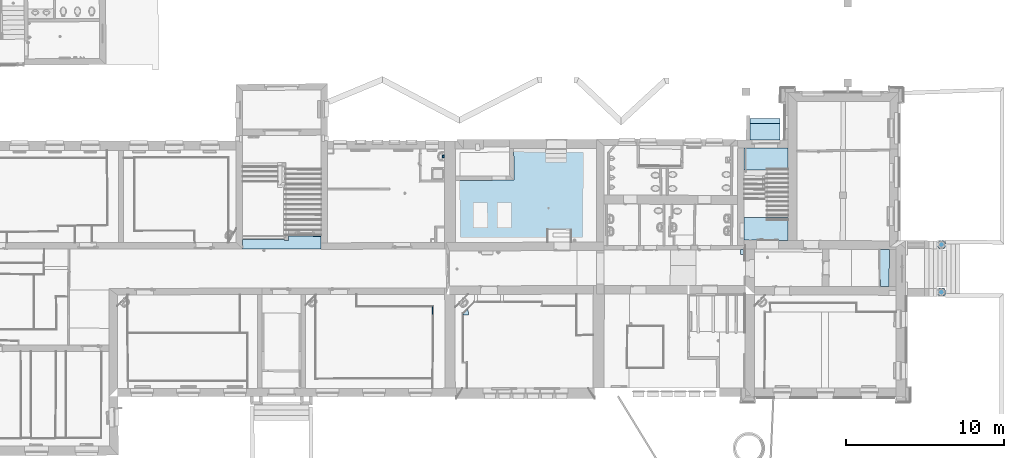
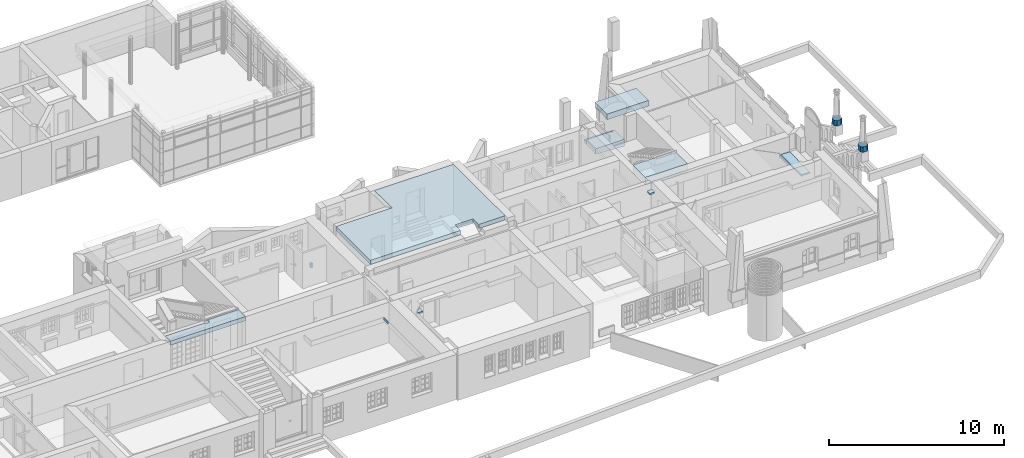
# One storey, part 15 of 196: 13 slabs.
"""IFC2X3 building model written with IfcOpenShell, lengths in metres."""

from ifc_helpers import new_model, entity, si_unit, converted_unit, derived_unit, money_unit, direction, frame, origin_with_axes, place, context, subcontext, project, spatial, polyline, outline, extrude, boolean, faceted_brep, material, layer, layer_set, layer_usage, type_object, element, save


model = new_model("IFC2X3")

# Units and contexts
model_context = context("Model", 3, precision=1e-05, world=origin_with_axes(), true_north=direction((0.0, 1.0)))
body_context = subcontext(model_context, "Body", "Model", "MODEL_VIEW")
ifc_project = project(units=[si_unit("LENGTHUNIT", "METRE"), si_unit("AREAUNIT", "SQUARE_METRE"), si_unit("VOLUMEUNIT", "CUBIC_METRE"), converted_unit("PLANEANGLEUNIT", "DEGREE", entity("IfcPlaneAngleMeasure", 0.0174532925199), si_unit("PLANEANGLEUNIT", "RADIAN"), dimensions=[0, 0, 0, 0, 0, 0, 0]), money_unit("EUR"), converted_unit("TIMEUNIT", "Year", entity("IfcTimeMeasure", 31556926.0), si_unit("TIMEUNIT", "SECOND"), dimensions=[0, 0, 1, 0, 0, 0, 0]), si_unit("MASSUNIT", "GRAM", prefix="KILO"), si_unit("THERMODYNAMICTEMPERATUREUNIT", "DEGREE_CELSIUS"), si_unit("LUMINOUSINTENSITYUNIT", "LUMEN"), si_unit("ENERGYUNIT", "JOULE", prefix="MEGA"), derived_unit("THERMALCONDUCTANCEUNIT", [(si_unit("POWERUNIT", "WATT"), 1), (si_unit("LENGTHUNIT", "METRE"), -1), (si_unit("THERMODYNAMICTEMPERATUREUNIT", "KELVIN"), -1)]), derived_unit("SPECIFICHEATCAPACITYUNIT", [(si_unit("ENERGYUNIT", "JOULE"), 1), (si_unit("MASSUNIT", "GRAM", prefix="KILO"), -1), (si_unit("THERMODYNAMICTEMPERATUREUNIT", "KELVIN"), -1)]), derived_unit("MASSDENSITYUNIT", [(si_unit("MASSUNIT", "GRAM", prefix="KILO"), 1), (si_unit("VOLUMEUNIT", "CUBIC_METRE"), -1)])], contexts=[model_context])

# Site, building, storey
site_placement = place(None, origin_with_axes())
site = spatial("IfcSite", under=ifc_project, at=site_placement, Name="Gelände", CompositionType="ELEMENT")
building_placement = place(site_placement, origin_with_axes())
building = spatial("IfcBuilding", under=site, at=building_placement, Name="Gebäude", CompositionType="ELEMENT")
storey_placement = place(building_placement, frame((0.0, 0.0, -3.0), z_axis=(0.0, 0.0, 1.0), x_axis=(1.0, 0.0, 0.0)))
storey = spatial("IfcBuildingStorey", under=building, at=storey_placement, Name="KELLERGESCHOSS", CompositionType="ELEMENT", Elevation=-3.0)

# Slabs
ifc_material_1 = material(Name="05_ALLGEMEIN - TRAGENDE BAUTEILE")
ifc_layer_1 = layer(ifc_material_1, 0.31, ventilated="UNKNOWN")
ifc_layer_set_1 = layer_set([ifc_layer_1], Name="05_ALLGEMEIN - TRAGENDE BAUTEILE 0.31")
ifc_layer_usage_1 = layer_usage(ifc_layer_set_1, "AXIS3", "NEGATIVE", 0.31)
slab_type_1 = type_object("IfcSlabType", Name="05_ALLGEMEIN - TRAGENDE BAUTEILE 310", PredefinedType="NOTDEFINED")
slab_1_placement = place(storey_placement, frame((2.80264504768, 25.2191567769, 0.27), z_axis=(0.0, 0.0, 1.0), x_axis=(1.0, 0.0, 0.0)))
element("IfcSlab", 1, at=slab_1_placement, inside=storey, type_object=slab_type_1, material=ifc_layer_usage_1, Name="Belag-003", PredefinedType="NOTDEFINED", context=body_context, shape_type="SweptSolid", body=[
    extrude(outline(polyline([(0.0, 0.0), (-0.00137280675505, -0.157319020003), (0.122452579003, -0.159555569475), (0.122284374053, 0.00289254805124), (0.0, 0.0)])), frame((0.0, 0.0, -0.31), z_axis=(0.0, 0.0, 1.0), x_axis=(1.0, 0.0, 0.0)), (0.0, 0.0, 1.0), 0.31),
])
ifc_layer_2 = layer(ifc_material_1, 0.13, ventilated="UNKNOWN")
ifc_layer_set_2 = layer_set([ifc_layer_2], Name="05_ALLGEMEIN - TRAGENDE BAUTEILE 0.13")
ifc_layer_usage_2 = layer_usage(ifc_layer_set_2, "AXIS3", "NEGATIVE", 0.13)
slab_type_2 = type_object("IfcSlabType", Name="05_ALLGEMEIN - TRAGENDE BAUTEILE 130", PredefinedType="NOTDEFINED")
slab_2_placement = place(storey_placement, frame((30.5121626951, 16.8856424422, 1.61), z_axis=(0.0, 0.0, 1.0), x_axis=(1.0, 0.0, 0.0)))
element("IfcSlab", 2, at=slab_2_placement, inside=storey, type_object=slab_type_2, material=ifc_layer_usage_2, Name="Belag-011", PredefinedType="NOTDEFINED", context=body_context, shape_type="CSG", body=[
    boolean("DIFFERENCE", extrude(outline(polyline([(0.0, 0.0), (0.550714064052, -0.000632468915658), (0.583862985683, 2.35374595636), (-0.0126584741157, 2.35694216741), (0.0, 0.0)])), origin_with_axes(), (0.0, 0.0, 1.0), 0.13), faceted_brep([(0.542655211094, 2.35396675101, 0.0), (0.549791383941, -0.000631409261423, 0.0), (0.0, 0.0, 0.0), (-0.0126584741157, 2.35694216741, 0.0), (0.480232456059, -0.000551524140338, 0.0207795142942), (0.473095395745, 2.35433945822, 0.0207795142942), (0.0490111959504, -5.6287028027e-05, 0.0207795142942), (0.0, 0.0, 0.00613827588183), (0.409191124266, -0.000469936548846, 0.0357249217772), (0.337155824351, -0.00038720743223, 0.0447334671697), (0.264621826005, -0.000303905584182, 0.0477432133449), (0.192087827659, -0.000220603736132, 0.0447334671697), (0.120052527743, -0.000137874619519, 0.0357249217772), (-0.0126584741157, 2.35694216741, 0.00449070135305), (0.0418686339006, 2.35665000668, 0.0207795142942), (0.112910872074, 2.35626935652, 0.0357249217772), (0.184947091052, 2.35588338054, 0.0447334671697), (0.257482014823, 2.35549473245, 0.0477432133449), (0.330016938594, 2.35510608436, 0.0447334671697), (0.402053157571, 2.35472010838, 0.0357249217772)], [[[0, 1, 2, 3]], [[4, 1, 0, 5]], [[6, 7, 2, 1, 4, 8, 9, 10, 11, 12]], [[7, 13, 3, 2]], [[5, 0, 3, 13, 14, 15, 16, 17, 18, 19]], [[8, 4, 5, 19]], [[7, 6, 14, 13]], [[9, 8, 19, 18]], [[10, 9, 18, 17]], [[11, 10, 17, 16]], [[12, 11, 16, 15]], [[6, 12, 15, 14]]])),
])
ifc_layer_3 = layer(ifc_material_1, 0.11, ventilated="UNKNOWN")
ifc_layer_set_3 = layer_set([ifc_layer_3], Name="05_ALLGEMEIN - TRAGENDE BAUTEILE 0.11")
ifc_layer_usage_3 = layer_usage(ifc_layer_set_3, "AXIS3", "NEGATIVE", 0.11)
slab_type_3 = type_object("IfcSlabType", Name="05_ALLGEMEIN - TRAGENDE BAUTEILE 110", PredefinedType="NOTDEFINED")
slab_3_placement = place(storey_placement, frame((21.6633127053, 18.9101636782, 2.2), z_axis=(0.0, 0.0, 1.0), x_axis=(1.0, 0.0, 0.0)))
element("IfcSlab", 3, at=slab_3_placement, inside=storey, type_object=slab_type_3, material=ifc_layer_usage_3, Name="Belag-019", PredefinedType="NOTDEFINED", context=body_context, shape_type="SweptSolid", body=[
    extrude(outline(polyline([(0.0, 0.0), (0.247676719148, 0.00418104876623), (0.311260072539, 0.00525440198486), (0.312191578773, 0.320155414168), (0.00214387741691, 0.319103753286), (0.0, 0.0)])), origin_with_axes(), (0.0, 0.0, 1.0), 0.11),
])
ifc_layer_4 = layer(ifc_material_1, 0.295, ventilated="UNKNOWN")
ifc_layer_set_4 = layer_set([ifc_layer_4], Name="05_ALLGEMEIN - TRAGENDE BAUTEILE 0.295")
ifc_layer_usage_4 = layer_usage(ifc_layer_set_4, "AXIS3", "NEGATIVE", 0.295)
slab_type_4 = type_object("IfcSlabType", Name="05_ALLGEMEIN - TRAGENDE BAUTEILE 295", PredefinedType="NOTDEFINED")
slab_4_placement = place(storey_placement, frame((7.30983129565, 25.6240315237, 3.18), z_axis=(0.0, 0.0, 1.0), x_axis=(1.0, 0.0, 0.0)))
element("IfcSlab", 4, at=slab_4_placement, inside=storey, type_object=slab_type_4, material=ifc_layer_usage_4, Name="Belag-008", PredefinedType="NOTDEFINED", context=body_context, shape_type="CSG", body=[
    boolean("DIFFERENCE", extrude(outline(polyline([(0.0, 0.0), (0.0283153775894, -1.99284961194), (-3.69323203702, -2.01430774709), (-3.68918093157, -5.92684679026), (5.23764491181, -5.9213734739), (5.23261943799, 0.008700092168), (0.0, 0.0)])), origin_with_axes(), (0.0, 0.0, 1.0), 0.295), faceted_brep([(2.30195885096, -5.92317343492, 0.295), (2.30195885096, -5.92317343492, 0.0), (3.48779025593, -5.92244636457, 0.0), (3.48779025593, -5.92244636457, 0.295), (2.2887735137, -5.28124656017, 0.295), (2.2887735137, -5.28124656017, 0.0), (3.4839604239, -5.28603507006, 0.0), (3.4839604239, -5.28603507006, 0.295)], [[[0, 1, 2, 3]], [[1, 0, 4, 5]], [[6, 2, 1, 5]], [[7, 3, 2, 6]], [[4, 0, 3, 7]], [[4, 7, 6, 5]]])),
])
ifc_layer_5 = layer(ifc_material_1, 0.397278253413, ventilated="UNKNOWN")
ifc_layer_set_5 = layer_set([ifc_layer_5], Name="05_ALLGEMEIN - TRAGENDE BAUTEILE 0.397278")
ifc_layer_usage_5 = layer_usage(ifc_layer_set_5, "AXIS3", "NEGATIVE", 0.397278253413)
slab_type_5 = type_object("IfcSlabType", Name="05_ALLGEMEIN - TRAGENDE BAUTEILE 397", PredefinedType="NOTDEFINED")
slab_5_placement = place(storey_placement, frame((21.9000872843, 24.2595498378, 4.13201374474), z_axis=(0.0, 0.0, 1.0), x_axis=(1.0, 0.0, 0.0)))
element("IfcSlab", 5, at=slab_5_placement, inside=storey, type_object=slab_type_5, material=ifc_layer_usage_5, Name="Belag-003", PredefinedType="NOTDEFINED", context=body_context, shape_type="CSG", body=[
    boolean("DIFFERENCE", extrude(outline(polyline([(0.0, 0.0), (2.77244083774, -0.00455634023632), (2.77264919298, 1.40706939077), (0.00181504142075, 1.39201203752), (0.0, 0.0)])), origin_with_axes(), (0.0, 0.0, 1.0), 0.397278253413), faceted_brep([(0.00181504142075, 1.39201203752, 0.0042014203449), (2.77264919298, 1.40706938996, -2.99829205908e-09), (0.00181504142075, 1.39201203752, 0.0), (2.77262753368, 1.26032564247, 0.0398627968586), (0.00164386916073, 1.26073467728, 0.0398627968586), (2.77245059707, 0.0615639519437, 0.0), (8.08067073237e-05, 0.0619731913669, 0.0), (0.000272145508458, 0.208716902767, 0.0398627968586), (0.000498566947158, 0.382366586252, 0.0731623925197), (0.000727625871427, 0.558039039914, 0.0932189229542), (0.000958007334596, 0.734725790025, 0.0999172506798), (0.00118838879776, 0.911412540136, 0.0932189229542), (0.00141744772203, 1.0870849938, 0.0731623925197), (2.77247225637, 0.208307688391, 0.0398627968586), (2.77260190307, 1.08667592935, 0.0731623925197), (2.7725759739, 0.9110034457, 0.0932189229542), (2.77254989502, 0.734316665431, 0.0999172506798), (2.77252381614, 0.557629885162, 0.0932189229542), (2.77249788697, 0.381957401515, 0.0731623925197)], [[[0, 1, 2]], [[3, 1, 0, 4]], [[5, 6, 2, 1]], [[4, 0, 2, 6, 7, 8, 9, 10, 11, 12]], [[13, 5, 1, 3, 14, 15, 16, 17, 18]], [[14, 3, 4, 12]], [[5, 13, 7, 6]], [[13, 18, 8, 7]], [[18, 17, 9, 8]], [[17, 16, 10, 9]], [[16, 15, 11, 10]], [[15, 14, 12, 11]]])),
])
ifc_layer_6 = layer(ifc_material_1, 0.358228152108, ventilated="UNKNOWN")
ifc_layer_set_6 = layer_set([ifc_layer_6], Name="05_ALLGEMEIN - TRAGENDE BAUTEILE 0.358228")
ifc_layer_usage_6 = layer_usage(ifc_layer_set_6, "AXIS3", "NEGATIVE", 0.358228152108)
slab_type_6 = type_object("IfcSlabType", Name="05_ALLGEMEIN - TRAGENDE BAUTEILE 358", PredefinedType="NOTDEFINED")
slab_6_placement = place(storey_placement, frame((22.2758133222, 27.5333354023, 0.65), z_axis=(0.0, 0.0, 1.0), x_axis=(1.0, 0.0, 0.0)))
element("IfcSlab", 6, at=slab_6_placement, inside=storey, type_object=slab_type_6, material=ifc_layer_usage_6, Name="Belag-011", PredefinedType="NOTDEFINED", context=body_context, shape_type="CSG", body=[
    boolean("DIFFERENCE", extrude(outline(polyline([(0.0, 0.0), (-0.00264036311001, -0.302895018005), (1.88419596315, -0.308256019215), (1.88429014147, -0.0114788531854), (0.0, 0.0)])), frame((0.0, 0.0, -0.358228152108), z_axis=(0.0, 0.0, 1.0), x_axis=(1.0, 0.0, 0.0)), (0.0, 0.0, 1.0), 0.358228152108), faceted_brep([(0.0, 0.0, -0.204943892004), (0.495109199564, -0.00301614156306, -0.209960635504), (1.88429014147, -0.0114788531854, -0.288309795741), (1.88429014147, -0.0114788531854, -0.358228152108), (0.0, 0.0, -0.358228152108), (-0.00264036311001, -0.302895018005, -0.196482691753), (0.17700094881, -0.303405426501, -0.198319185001), (1.88419596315, -0.308256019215, -0.294488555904), (1.88419596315, -0.308256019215, -0.358228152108), (-0.00264036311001, -0.302895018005, -0.358228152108)], [[[0, 1, 2, 3, 4]], [[1, 0, 5, 6]], [[7, 2, 1, 6]], [[2, 7, 8, 3]], [[9, 4, 3, 8]], [[5, 0, 4, 9]], [[6, 5, 9, 8, 7]]])),
])
ifc_layer_7 = layer(ifc_material_1, 0.387639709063, ventilated="UNKNOWN")
ifc_layer_set_7 = layer_set([ifc_layer_7], Name="05_ALLGEMEIN - TRAGENDE BAUTEILE 0.38764")
ifc_layer_usage_7 = layer_usage(ifc_layer_set_7, "AXIS3", "NEGATIVE", 0.387639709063)
slab_type_7 = type_object("IfcSlabType", Name="05_ALLGEMEIN - TRAGENDE BAUTEILE 388", PredefinedType="NOTDEFINED")
slab_7_placement = place(storey_placement, frame((34.1311029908, 16.6774625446, 2.35922048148), z_axis=(0.0, 0.0, 1.0), x_axis=(1.0, 0.0, 0.0)))
element("IfcSlab", 7, at=slab_7_placement, inside=storey, type_object=slab_type_7, material=ifc_layer_usage_7, Name="Belag-012", PredefinedType="NOTDEFINED", context=body_context, shape_type="SweptSolid", body=[
    extrude(outline(polyline([(0.0, 0.0), (-0.00318167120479, -0.266317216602), (0.111981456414, -0.384372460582), (0.376712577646, -0.387535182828), (0.496478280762, -0.272286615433), (0.499659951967, -0.00596939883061), (0.382685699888, 0.112436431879), (0.117954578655, 0.115599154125), (0.0, 0.0)])), origin_with_axes(), (0.0, 0.0, 1.0), 0.387639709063),
])
ifc_layer_usage_8 = layer_usage(ifc_layer_set_7, "AXIS3", "NEGATIVE", 0.387639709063)
slab_8_placement = place(storey_placement, frame((34.1374270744, 19.6841862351, 2.36975448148), z_axis=(0.0, 0.0, 1.0), x_axis=(1.0, 0.0, 0.0)))
element("IfcSlab", 8, at=slab_8_placement, inside=storey, type_object=slab_type_7, material=ifc_layer_usage_8, Name="Belag-012", PredefinedType="NOTDEFINED", context=body_context, shape_type="SweptSolid", body=[
    extrude(outline(polyline([(0.0, 0.0), (-0.00318167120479, -0.266317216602), (0.111981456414, -0.384372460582), (0.376712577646, -0.387535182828), (0.496478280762, -0.272286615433), (0.499659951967, -0.00596939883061), (0.382685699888, 0.112436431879), (0.117954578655, 0.115599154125), (0.0, 0.0)])), origin_with_axes(), (0.0, 0.0, 1.0), 0.387639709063),
])
ifc_layer_8 = layer(ifc_material_1, 0.582052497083, ventilated="UNKNOWN")
ifc_layer_set_8 = layer_set([ifc_layer_8], Name="05_ALLGEMEIN - TRAGENDE BAUTEILE 0.582052")
ifc_layer_usage_9 = layer_usage(ifc_layer_set_8, "AXIS3", "NEGATIVE", 0.582052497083)
slab_type_8 = type_object("IfcSlabType", Name="05_ALLGEMEIN - TRAGENDE BAUTEILE 582", PredefinedType="NOTDEFINED")
slab_9_placement = place(storey_placement, frame((22.2639598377, 26.173537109, 0.819774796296), z_axis=(0.0, 0.0, 1.0), x_axis=(1.0, 0.0, 0.0)))
element("IfcSlab", 9, at=slab_9_placement, inside=storey, type_object=slab_type_8, material=ifc_layer_usage_9, Name="Belag-012", PredefinedType="NOTDEFINED", context=body_context, shape_type="CSG", body=[
    boolean("DIFFERENCE", extrude(outline(polyline([(0.0, 0.0), (1.89571902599, 0.0103016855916), (1.89573419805, 0.0580458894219), (1.8960494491, 1.05154228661), (0.00921311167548, 1.05690333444), (0.0, 0.0)])), frame((0.0, 0.0, -0.582052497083), z_axis=(0.0, 0.0, 1.0), x_axis=(1.0, 0.0, 0.0)), (0.0, 0.0, 1.0), 0.582052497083), faceted_brep([(0.00921311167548, 1.05690333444, -0.366257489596), (0.188854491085, 1.05639292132, -0.36809398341), (1.8960494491, 1.05154228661, -0.464263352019), (1.8960494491, 1.05154228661, -0.582052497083), (0.00921311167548, 1.05690333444, -0.582052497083), (0.0077176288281, 0.885345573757, -0.36146512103), (1.89573417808, 0.0580458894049, -0.484947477), (0.000162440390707, 0.0186347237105, -0.379099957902), (1.89571987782, 0.0129822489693, -0.485885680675), (1.89573419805, 0.0580458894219, -0.582052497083), (1.89571902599, 0.0103016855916, -0.582052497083), (0.0, 0.0, -0.582052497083), (3.32292415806e-10, -6.11483699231e-08, -0.379090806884), (1.89571902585, 0.0103017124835, -0.485885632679)], [[[0, 1, 2, 3, 4]], [[1, 0, 5]], [[6, 2, 1, 5, 7, 8]], [[2, 6, 9, 3]], [[3, 9, 10, 11, 4]], [[5, 0, 4, 11, 12, 7]], [[13, 8, 7, 12]], [[8, 13, 10, 9, 6]], [[13, 12, 11, 10]]])),
])
ifc_layer_9 = layer(ifc_material_1, 0.55, ventilated="UNKNOWN")
ifc_layer_set_9 = layer_set([ifc_layer_9], Name="05_ALLGEMEIN - TRAGENDE BAUTEILE 0.55")
ifc_layer_usage_10 = layer_usage(ifc_layer_set_9, "AXIS3", "NEGATIVE", 0.55)
slab_type_9 = type_object("IfcSlabType", Name="05_ALLGEMEIN - TRAGENDE BAUTEILE 550", PredefinedType="NOTDEFINED")
slab_10_placement = place(storey_placement, frame((21.8961787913, 21.2620117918, 2.24), z_axis=(0.0, 0.0, 1.0), x_axis=(1.0, 0.0, 0.0)))
element("IfcSlab", 10, at=slab_10_placement, inside=storey, type_object=slab_type_9, material=ifc_layer_usage_10, Name="Belag-013", PredefinedType="NOTDEFINED", context=body_context, shape_type="CSG", body=[
    boolean("DIFFERENCE", extrude(outline(polyline([(0.0, 0.0), (-0.00185663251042, -1.42390596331), (2.77569513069, -1.43878832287), (2.77590744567, -0.000409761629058), (0.0, 0.0)])), origin_with_axes(), (0.0, 0.0, 1.0), 0.55), faceted_brep([(2.77570536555, -1.36944980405, 0.0), (-0.00178509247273, -1.36903980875, 0.0), (-0.000144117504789, -0.110527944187, 0.0), (2.77589113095, -0.110937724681, 0.0), (2.77572757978, -1.21895422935, 0.0611784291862), (-0.00158886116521, -1.21854425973, 0.0611784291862), (-0.000340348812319, -0.261023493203, 0.0611784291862), (-0.00138504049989, -1.06222820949, 0.105416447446), (-0.00117610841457, -0.901992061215, 0.132176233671), (-0.000964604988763, -0.739783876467, 0.141132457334), (-0.00075310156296, -0.577575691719, 0.132176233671), (-0.000544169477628, -0.417339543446, 0.105416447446), (2.77586891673, -0.261433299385, 0.0611784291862), (2.77584584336, -0.417749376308, 0.105416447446), (2.77582219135, -0.577985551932, 0.132176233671), (2.77579824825, -0.740193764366, 0.141132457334), (2.77577430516, -0.9024019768, 0.132176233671), (2.77575065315, -1.06263815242, 0.105416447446)], [[[0, 1, 2, 3]], [[0, 4, 5, 1]], [[6, 2, 1, 5, 7, 8, 9, 10, 11]], [[12, 3, 2, 6]], [[4, 0, 3, 12, 13, 14, 15, 16, 17]], [[4, 17, 7, 5]], [[17, 16, 8, 7]], [[16, 15, 9, 8]], [[15, 14, 10, 9]], [[14, 13, 11, 10]], [[13, 12, 6, 11]]])),
])
ifc_material_2 = material(Name="01_ALLGEMEIN - BAUTEIL")
ifc_layer_10 = layer(ifc_material_2, 0.09, ventilated="UNKNOWN")
ifc_layer_set_10 = layer_set([ifc_layer_10], Name="01_ALLGEMEIN - BAUTEIL 0.09")
ifc_layer_usage_11 = layer_usage(ifc_layer_set_10, "AXIS3", "NEGATIVE", 0.09)
slab_type_10 = type_object("IfcSlabType", Name="01_ALLGEMEIN - BAUTEIL 90", PredefinedType="NOTDEFINED")
slab_11_placement = place(storey_placement, frame((4.11119962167, 15.192006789, 2.35), z_axis=(0.0, 0.0, 1.0), x_axis=(1.0, 0.0, 0.0)))
element("IfcSlab", 11, at=slab_11_placement, inside=storey, type_object=slab_type_10, material=ifc_layer_usage_11, Name="Belag-013", PredefinedType="NOTDEFINED", context=body_context, shape_type="SweptSolid", body=[
    extrude(outline(polyline([(0.0, 0.0), (0.000178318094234, -0.103253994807), (0.32774174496, -0.104690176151), (0.324551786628, 0.320490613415), (0.0, 0.0)])), origin_with_axes(), (0.0, 0.0, 1.0), 0.09),
])
ifc_layer_11 = layer(ifc_material_2, 0.16, ventilated="UNKNOWN")
ifc_layer_set_11 = layer_set([ifc_layer_11], Name="01_ALLGEMEIN - BAUTEIL 0.16")
ifc_layer_usage_12 = layer_usage(ifc_layer_set_11, "AXIS3", "NEGATIVE", 0.16)
slab_type_11 = type_object("IfcSlabType", Name="01_ALLGEMEIN - BAUTEIL 160", PredefinedType="NOTDEFINED")
slab_12_placement = place(storey_placement, frame((2.15559044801, 15.6257965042, 2.3), z_axis=(0.0, 0.0, 1.0), x_axis=(1.0, 0.0, 0.0)))
element("IfcSlab", 12, at=slab_12_placement, inside=storey, type_object=slab_type_11, material=ifc_layer_usage_12, Name="Belag-014", PredefinedType="NOTDEFINED", context=body_context, shape_type="SweptSolid", body=[
    extrude(outline(polyline([(0.0, 0.0), (0.000260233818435, -0.482245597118), (0.0330624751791, -0.482377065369), (0.0349957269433, -5.44130484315e-06), (0.0, 0.0)])), origin_with_axes(), (0.0, 0.0, 1.0), 0.16),
])
ifc_layer_12 = layer(ifc_material_1, 0.297592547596, ventilated="UNKNOWN")
ifc_layer_set_12 = layer_set([ifc_layer_12], Name="05_ALLGEMEIN - TRAGENDE BAUTEILE 0.297593")
ifc_layer_usage_13 = layer_usage(ifc_layer_set_12, "AXIS3", "NEGATIVE", 0.297592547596)
slab_type_12 = type_object("IfcSlabType", Name="05_ALLGEMEIN - TRAGENDE BAUTEILE 298", PredefinedType="NOTDEFINED")
slab_13_placement = place(storey_placement, frame((-9.84153869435, 19.8785318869, 2.4924074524), z_axis=(0.0, 0.0, 1.0), x_axis=(1.0, 0.0, 0.0)))
element("IfcSlab", 13, at=slab_13_placement, inside=storey, type_object=slab_type_12, material=ifc_layer_usage_13, Name="Belag-015", PredefinedType="NOTDEFINED", context=body_context, shape_type="CSG", body=[
    boolean("DIFFERENCE", extrude(outline(polyline([(0.0, 0.0), (5.61271665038e-05, -0.596249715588), (4.96119454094, -0.615514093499), (4.96161064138, 0.328208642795), (2.91225552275, 0.33924997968), (2.91225552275, -0.057462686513), (2.64867224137, -0.057462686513), (2.64867224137, -0.00468484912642), (0.0, 0.0)])), origin_with_axes(), (0.0, 0.0, 1.0), 0.297592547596), faceted_brep([(4.96158089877, 0.260751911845, 0.247592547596), (4.96158089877, 0.260751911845, 0.184735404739), (4.96161064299, 0.328208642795, 0.184735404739), (4.96161064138, 0.328208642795, 0.297592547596), (4.96155444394, 0.20075191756, 0.297592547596), (4.96155444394, 0.20075191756, 0.247592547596), (2.91225552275, 0.261524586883, 0.247592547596), (2.91225552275, 0.261524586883, 0.184735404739), (2.91225552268, 0.339249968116, 0.184735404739), (2.91225552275, 0.33924997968, 0.297592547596), (2.91225552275, 0.201524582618, 0.297592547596), (2.91225552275, 0.201524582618, 0.247592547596)], [[[0, 1, 2, 3, 4, 5]], [[1, 0, 6, 7]], [[8, 2, 1, 7]], [[2, 8, 9, 3]], [[10, 4, 3, 9]], [[5, 4, 10, 11]], [[0, 5, 11, 6]], [[11, 10, 9, 8, 7, 6]]])),
])

save(model, "model.ifc")
